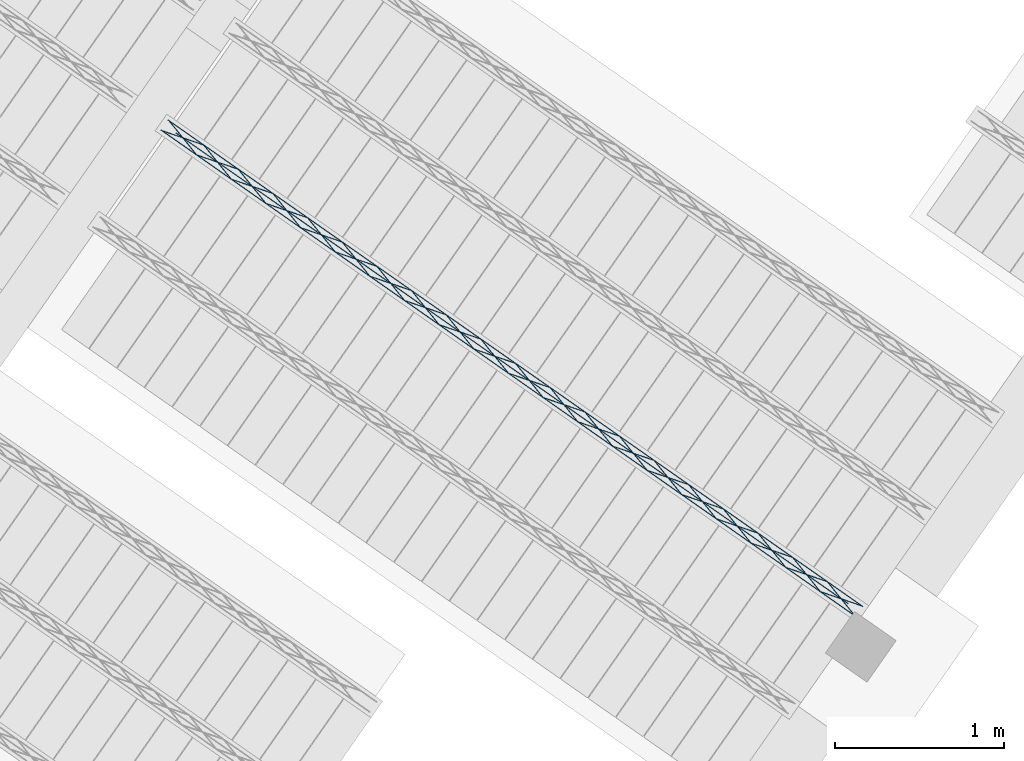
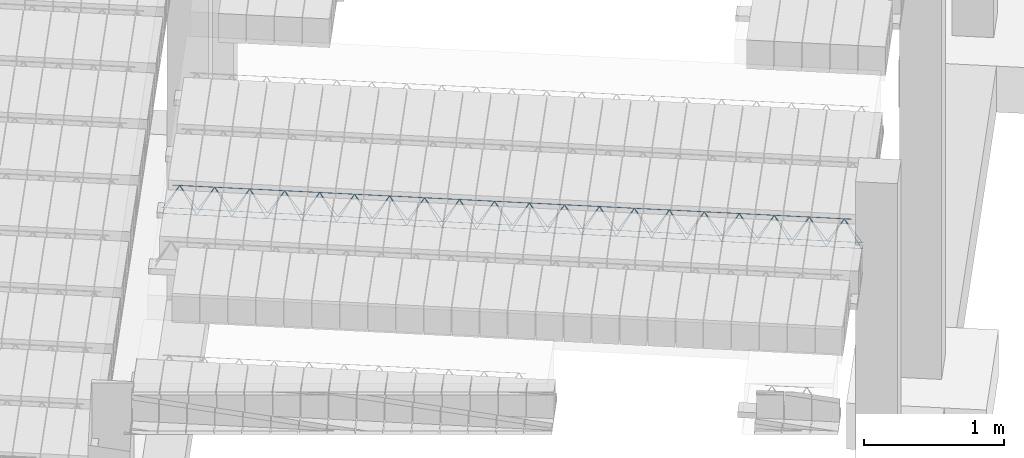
# One storey, part 24 of 80: 1 member.
"""IFC2X3 building model written with IfcOpenShell, lengths in metres."""

from ifc_helpers import new_model, entity, si_unit, converted_unit, derived_unit, direction, frame, origin, origin_2d_with_axis, place, context, subcontext, project, spatial, circle, extrude, type_object, element, save


model = new_model("IFC2X3")

# Units and contexts
model_context = context("Model", 3, precision=1e-05, world=origin(), true_north=direction((6.123031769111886e-17, 1.0)))
body_context = subcontext(model_context, "Body", "Model", "MODEL_VIEW")
ifc_project = project(units=[si_unit("LENGTHUNIT", "METRE"), si_unit("AREAUNIT", "SQUARE_METRE"), si_unit("VOLUMEUNIT", "CUBIC_METRE"), converted_unit("PLANEANGLEUNIT", "DEGREE", entity("IfcPlaneAngleMeasure", 0.017453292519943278), si_unit("PLANEANGLEUNIT", "RADIAN"), dimensions=[0, 0, 0, 0, 0, 0, 0]), si_unit("MASSUNIT", "GRAM", prefix="KILO"), derived_unit("MASSDENSITYUNIT", [(si_unit("MASSUNIT", "GRAM", prefix="KILO"), 1), (si_unit("LENGTHUNIT", "METRE"), -3)]), derived_unit("IONCONCENTRATIONUNIT", [(si_unit("MASSUNIT", "GRAM", prefix="KILO"), 1), (si_unit("LENGTHUNIT", "METRE"), -3)]), derived_unit("MOMENTOFINERTIAUNIT", [(si_unit("LENGTHUNIT", "METRE"), 4)]), si_unit("TIMEUNIT", "SECOND"), si_unit("FREQUENCYUNIT", "HERTZ"), si_unit("THERMODYNAMICTEMPERATUREUNIT", "DEGREE_CELSIUS"), derived_unit("THERMALTRANSMITTANCEUNIT", [(si_unit("MASSUNIT", "GRAM", prefix="KILO"), 1), (si_unit("THERMODYNAMICTEMPERATUREUNIT", "KELVIN"), -1), (si_unit("TIMEUNIT", "SECOND"), -3)]), derived_unit("THERMALCONDUCTANCEUNIT", [(si_unit("MASSUNIT", "GRAM", prefix="KILO"), 1), (si_unit("THERMODYNAMICTEMPERATUREUNIT", "KELVIN"), -1), (si_unit("TIMEUNIT", "SECOND"), -3), (si_unit("LENGTHUNIT", "METRE"), 1)]), derived_unit("VOLUMETRICFLOWRATEUNIT", [(si_unit("LENGTHUNIT", "METRE", prefix="DECI"), 3), (si_unit("TIMEUNIT", "SECOND"), -1)]), derived_unit("MASSFLOWRATEUNIT", [(si_unit("MASSUNIT", "GRAM", prefix="KILO"), 1), (si_unit("TIMEUNIT", "SECOND"), -1)]), derived_unit("ROTATIONALFREQUENCYUNIT", [(si_unit("TIMEUNIT", "SECOND"), -1)]), si_unit("ELECTRICCURRENTUNIT", "AMPERE"), si_unit("ELECTRICVOLTAGEUNIT", "VOLT"), si_unit("POWERUNIT", "WATT"), si_unit("FORCEUNIT", "NEWTON", prefix="KILO"), si_unit("ILLUMINANCEUNIT", "LUX"), si_unit("LUMINOUSFLUXUNIT", "LUMEN"), si_unit("LUMINOUSINTENSITYUNIT", "CANDELA"), si_unit("ENERGYUNIT", "JOULE"), derived_unit("USERDEFINED", [(si_unit("MASSUNIT", "GRAM", prefix="KILO"), -1), (si_unit("LENGTHUNIT", "METRE"), -2), (si_unit("TIMEUNIT", "SECOND"), 3), (si_unit("LUMINOUSFLUXUNIT", "LUMEN"), 1)]), derived_unit("USERDEFINED", [(si_unit("MASSUNIT", "GRAM", prefix="KILO"), 1), (si_unit("TIMEUNIT", "SECOND"), -3), (si_unit("LENGTHUNIT", "METRE"), 3), (si_unit("ELECTRICCURRENTUNIT", "AMPERE"), -2)]), derived_unit("SOUNDPOWERUNIT", [(si_unit("MASSUNIT", "GRAM", prefix="KILO"), 1), (si_unit("TIMEUNIT", "SECOND"), -3), (si_unit("LENGTHUNIT", "METRE"), 2)]), derived_unit("SOUNDPRESSUREUNIT", [(si_unit("MASSUNIT", "GRAM", prefix="KILO"), 1), (si_unit("LENGTHUNIT", "METRE"), -1), (si_unit("TIMEUNIT", "SECOND"), -2)]), derived_unit("LINEARVELOCITYUNIT", [(si_unit("LENGTHUNIT", "METRE"), 1), (si_unit("TIMEUNIT", "SECOND"), -1)]), si_unit("PRESSUREUNIT", "PASCAL"), derived_unit("USERDEFINED", [(si_unit("MASSUNIT", "GRAM", prefix="KILO"), 1), (si_unit("LENGTHUNIT", "METRE"), -2), (si_unit("TIMEUNIT", "SECOND"), -2)]), derived_unit("LINEARFORCEUNIT", [(si_unit("MASSUNIT", "GRAM", prefix="KILO"), 1), (si_unit("TIMEUNIT", "SECOND"), -2)]), derived_unit("PLANARFORCEUNIT", [(si_unit("MASSUNIT", "GRAM", prefix="KILO"), 1), (si_unit("LENGTHUNIT", "METRE"), -1), (si_unit("TIMEUNIT", "SECOND"), -2)]), derived_unit("SPECIFICHEATCAPACITYUNIT", [(si_unit("THERMODYNAMICTEMPERATUREUNIT", "KELVIN"), -1), (si_unit("LENGTHUNIT", "METRE"), 2), (si_unit("TIMEUNIT", "SECOND"), -2)]), derived_unit("HEATFLUXDENSITYUNIT", [(si_unit("MASSUNIT", "GRAM", prefix="KILO"), 1), (si_unit("TIMEUNIT", "SECOND"), -3)]), derived_unit("HEATINGVALUEUNIT", [(si_unit("LENGTHUNIT", "METRE"), 2), (si_unit("TIMEUNIT", "SECOND"), -2)]), derived_unit("VAPORPERMEABILITYUNIT", [(si_unit("LENGTHUNIT", "METRE"), -1), (si_unit("TIMEUNIT", "SECOND"), 1)]), derived_unit("DYNAMICVISCOSITYUNIT", [(si_unit("MASSUNIT", "GRAM", prefix="KILO"), 1), (si_unit("TIMEUNIT", "SECOND"), -1), (si_unit("LENGTHUNIT", "METRE"), -1)]), derived_unit("THERMALEXPANSIONCOEFFICIENTUNIT", [(si_unit("THERMODYNAMICTEMPERATUREUNIT", "KELVIN"), -1)]), derived_unit("MODULUSOFELASTICITYUNIT", [(si_unit("MASSUNIT", "GRAM", prefix="KILO"), 1), (si_unit("LENGTHUNIT", "METRE"), -1), (si_unit("TIMEUNIT", "SECOND"), -2)]), derived_unit("ISOTHERMALMOISTURECAPACITYUNIT", [(si_unit("MASSUNIT", "GRAM", prefix="KILO"), -1), (si_unit("LENGTHUNIT", "METRE"), 3)]), derived_unit("MOISTUREDIFFUSIVITYUNIT", [(si_unit("TIMEUNIT", "SECOND"), -1), (si_unit("LENGTHUNIT", "METRE"), 2)]), derived_unit("MASSPERLENGTHUNIT", [(si_unit("MASSUNIT", "GRAM", prefix="KILO"), 1), (si_unit("LENGTHUNIT", "METRE"), -1)]), derived_unit("THERMALRESISTANCEUNIT", [(si_unit("MASSUNIT", "GRAM", prefix="KILO"), -1), (si_unit("TIMEUNIT", "SECOND"), 3), (si_unit("THERMODYNAMICTEMPERATUREUNIT", "KELVIN"), 1)]), derived_unit("ACCELERATIONUNIT", [(si_unit("LENGTHUNIT", "METRE"), 1), (si_unit("TIMEUNIT", "SECOND"), -2)]), derived_unit("ANGULARVELOCITYUNIT", [(si_unit("TIMEUNIT", "SECOND"), -1), (si_unit("PLANEANGLEUNIT", "RADIAN"), 1)]), derived_unit("LINEARSTIFFNESSUNIT", [(si_unit("MASSUNIT", "GRAM", prefix="KILO"), 1), (si_unit("TIMEUNIT", "SECOND"), -2)]), derived_unit("WARPINGCONSTANTUNIT", [(si_unit("LENGTHUNIT", "METRE"), 6)]), derived_unit("LINEARMOMENTUNIT", [(si_unit("MASSUNIT", "GRAM", prefix="KILO"), 1), (si_unit("LENGTHUNIT", "METRE"), 1), (si_unit("TIMEUNIT", "SECOND"), -2)]), derived_unit("TORQUEUNIT", [(si_unit("MASSUNIT", "GRAM", prefix="KILO"), 1), (si_unit("LENGTHUNIT", "METRE"), 2), (si_unit("TIMEUNIT", "SECOND"), -2)])], contexts=[model_context])

# Site, building, storey
site_placement = place(None, origin())
site = spatial("IfcSite", under=ifc_project, at=site_placement, Name="Default", CompositionType="ELEMENT")
building_placement = place(site_placement, origin())
building = spatial("IfcBuilding", under=site, at=building_placement, CompositionType="ELEMENT")
storey_placement = place(building_placement, frame((0.0, 0.0, 95.94)))
storey = spatial("IfcBuildingStorey", under=building, at=storey_placement, Name="PB", CompositionType="ELEMENT", Elevation=95.94)

# Member
member_type = type_object("IfcMemberType", Name="Celosía (Vigueta 2 - Paño 6)", PredefinedType="NOTDEFINED")
member_placement = place(storey_placement, origin())
element("IfcMember", 1, at=member_placement, inside=storey, type_object=member_type, Name="Celosía (Vigueta 2 - Paño 6)", context=body_context, shape_type="SweptSolid", body=[
    extrude(circle(Radius=0.0025, at=origin_2d_with_axis()), frame((3.7604080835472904, 4.354992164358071, 3.3049999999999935), z_axis=(0.8191520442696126, -0.5735764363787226, 0.0), x_axis=(-0.5735764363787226, -0.8191520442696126, 0.0)), (0.0, 0.0, 1.0), 5.017554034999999),
    extrude(circle(Radius=0.0025, at=origin_2d_with_axis()), frame((7.82257036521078, 1.554583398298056, 3.5299999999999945), z_axis=(-0.8191520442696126, 0.5735764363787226, 0.0), x_axis=(-0.5735764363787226, -0.8191520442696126, 0.0)), (0.0, 0.0, 1.0), 4.849999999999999),
    extrude(circle(Radius=0.0025, at=origin_2d_with_axis()), frame((7.863358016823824, 1.482075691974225, 3.3049999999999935), z_axis=(-0.3145304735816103, 0.389334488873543, 0.8657304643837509), x_axis=(-0.7778747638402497, -0.6284193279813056, 0.0)), (0.0, 0.0, 1.0), 0.2598961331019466),
    extrude(circle(Radius=0.0025, at=origin_2d_with_axis()), frame((7.658570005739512, 1.625469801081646, 3.3049999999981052), z_axis=(0.47343050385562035, -0.1624017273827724, 0.8657304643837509), x_axis=(-0.3244721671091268, -0.9458952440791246, 0.0)), (0.0, 0.0, 1.0), 0.25989613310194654),
    extrude(circle(Radius=0.0025, at=origin_2d_with_axis()), frame((7.65857000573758, 1.6254698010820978, 3.3049999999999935), z_axis=(-0.3145304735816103, 0.389334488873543, 0.8657304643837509), x_axis=(-0.7778747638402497, -0.6284193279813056, 0.0)), (0.0, 0.0, 1.0), 0.2598961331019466),
    extrude(circle(Radius=0.0025, at=origin_2d_with_axis()), frame((7.453781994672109, 1.7688639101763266, 3.3049999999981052), z_axis=(0.47343050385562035, -0.1624017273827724, 0.8657304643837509), x_axis=(-0.3244721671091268, -0.9458952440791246, 0.0)), (0.0, 0.0, 1.0), 0.25989613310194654),
    extrude(circle(Radius=0.0025, at=origin_2d_with_axis()), frame((7.4537819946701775, 1.7688639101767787, 3.3049999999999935), z_axis=(-0.3145304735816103, 0.389334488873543, 0.8657304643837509), x_axis=(-0.7778747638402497, -0.6284193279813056, 0.0)), (0.0, 0.0, 1.0), 0.2598961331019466),
    extrude(circle(Radius=0.0025, at=origin_2d_with_axis()), frame((7.248993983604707, 1.9122580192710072, 3.3049999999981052), z_axis=(0.47343050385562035, -0.1624017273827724, 0.8657304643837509), x_axis=(-0.3244721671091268, -0.9458952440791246, 0.0)), (0.0, 0.0, 1.0), 0.25989613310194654),
    extrude(circle(Radius=0.0025, at=origin_2d_with_axis()), frame((7.248993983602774, 1.9122580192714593, 3.3049999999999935), z_axis=(-0.3145304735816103, 0.389334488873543, 0.8657304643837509), x_axis=(-0.7778747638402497, -0.6284193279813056, 0.0)), (0.0, 0.0, 1.0), 0.2598961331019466),
    extrude(circle(Radius=0.0025, at=origin_2d_with_axis()), frame((7.044205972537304, 2.055652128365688, 3.3049999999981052), z_axis=(0.47343050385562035, -0.1624017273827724, 0.8657304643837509), x_axis=(-0.3244721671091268, -0.9458952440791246, 0.0)), (0.0, 0.0, 1.0), 0.25989613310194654),
    extrude(circle(Radius=0.0025, at=origin_2d_with_axis()), frame((7.044205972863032, 2.055652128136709, 3.3049999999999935), z_axis=(-0.3145304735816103, 0.389334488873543, 0.8657304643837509), x_axis=(-0.7778747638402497, -0.6284193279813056, 0.0)), (0.0, 0.0, 1.0), 0.2598961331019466),
    extrude(circle(Radius=0.0025, at=origin_2d_with_axis()), frame((6.839417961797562, 2.199046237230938, 3.3049999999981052), z_axis=(0.47343050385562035, -0.1624017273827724, 0.8657304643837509), x_axis=(-0.3244721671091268, -0.9458952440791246, 0.0)), (0.0, 0.0, 1.0), 0.25989613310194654),
    extrude(circle(Radius=0.0025, at=origin_2d_with_axis()), frame((6.839417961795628, 2.1990462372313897, 3.3049999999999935), z_axis=(-0.3145304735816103, 0.389334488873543, 0.8657304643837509), x_axis=(-0.7778747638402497, -0.6284193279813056, 0.0)), (0.0, 0.0, 1.0), 0.2598961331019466),
    extrude(circle(Radius=0.0025, at=origin_2d_with_axis()), frame((6.634629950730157, 2.3424403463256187, 3.3049999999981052), z_axis=(0.47343050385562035, -0.1624017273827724, 0.8657304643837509), x_axis=(-0.3244721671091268, -0.9458952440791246, 0.0)), (0.0, 0.0, 1.0), 0.25989613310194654),
    extrude(circle(Radius=0.0025, at=origin_2d_with_axis()), frame((6.634629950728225, 2.342440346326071, 3.3049999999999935), z_axis=(-0.3145304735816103, 0.389334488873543, 0.8657304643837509), x_axis=(-0.7778747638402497, -0.6284193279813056, 0.0)), (0.0, 0.0, 1.0), 0.2598961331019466),
    extrude(circle(Radius=0.0025, at=origin_2d_with_axis()), frame((6.429841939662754, 2.4858344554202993, 3.3049999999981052), z_axis=(0.47343050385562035, -0.1624017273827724, 0.8657304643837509), x_axis=(-0.3244721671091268, -0.9458952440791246, 0.0)), (0.0, 0.0, 1.0), 0.25989613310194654),
    extrude(circle(Radius=0.0025, at=origin_2d_with_axis()), frame((6.429841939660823, 2.4858344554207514, 3.3049999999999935), z_axis=(-0.3145304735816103, 0.389334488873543, 0.8657304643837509), x_axis=(-0.7778747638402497, -0.6284193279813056, 0.0)), (0.0, 0.0, 1.0), 0.2598961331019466),
    extrude(circle(Radius=0.0025, at=origin_2d_with_axis()), frame((6.225053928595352, 2.6292285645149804, 3.3049999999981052), z_axis=(0.47343050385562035, -0.1624017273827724, 0.8657304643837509), x_axis=(-0.3244721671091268, -0.9458952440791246, 0.0)), (0.0, 0.0, 1.0), 0.25989613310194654),
    extrude(circle(Radius=0.0025, at=origin_2d_with_axis()), frame((6.225053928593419, 2.629228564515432, 3.3049999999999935), z_axis=(-0.3145304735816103, 0.389334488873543, 0.8657304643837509), x_axis=(-0.7778747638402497, -0.6284193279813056, 0.0)), (0.0, 0.0, 1.0), 0.2598961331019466),
    extrude(circle(Radius=0.0025, at=origin_2d_with_axis()), frame((6.020265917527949, 2.7726226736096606, 3.3049999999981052), z_axis=(0.47343050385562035, -0.1624017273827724, 0.8657304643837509), x_axis=(-0.3244721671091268, -0.9458952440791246, 0.0)), (0.0, 0.0, 1.0), 0.25989613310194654),
    extrude(circle(Radius=0.0025, at=origin_2d_with_axis()), frame((6.020265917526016, 2.7726226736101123, 3.3049999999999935), z_axis=(-0.3145304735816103, 0.389334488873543, 0.8657304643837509), x_axis=(-0.7778747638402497, -0.6284193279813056, 0.0)), (0.0, 0.0, 1.0), 0.2598961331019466),
    extrude(circle(Radius=0.0025, at=origin_2d_with_axis()), frame((5.815477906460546, 2.9160167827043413, 3.3049999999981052), z_axis=(0.47343050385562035, -0.1624017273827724, 0.8657304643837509), x_axis=(-0.3244721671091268, -0.9458952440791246, 0.0)), (0.0, 0.0, 1.0), 0.25989613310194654),
    extrude(circle(Radius=0.0025, at=origin_2d_with_axis()), frame((5.815477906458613, 2.916016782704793, 3.3049999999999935), z_axis=(-0.3145304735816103, 0.389334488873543, 0.8657304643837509), x_axis=(-0.7778747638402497, -0.6284193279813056, 0.0)), (0.0, 0.0, 1.0), 0.2598961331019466),
    extrude(circle(Radius=0.0025, at=origin_2d_with_axis()), frame((5.610689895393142, 3.0594108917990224, 3.3049999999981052), z_axis=(0.47343050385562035, -0.1624017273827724, 0.8657304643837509), x_axis=(-0.3244721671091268, -0.9458952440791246, 0.0)), (0.0, 0.0, 1.0), 0.25989613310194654),
    extrude(circle(Radius=0.0025, at=origin_2d_with_axis()), frame((5.61068989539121, 3.059410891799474, 3.3049999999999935), z_axis=(-0.3145304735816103, 0.389334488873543, 0.8657304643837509), x_axis=(-0.7778747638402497, -0.6284193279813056, 0.0)), (0.0, 0.0, 1.0), 0.2598961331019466),
    extrude(circle(Radius=0.0025, at=origin_2d_with_axis()), frame((5.405901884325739, 3.2028050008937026, 3.3049999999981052), z_axis=(0.47343050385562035, -0.1624017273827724, 0.8657304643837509), x_axis=(-0.3244721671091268, -0.9458952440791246, 0.0)), (0.0, 0.0, 1.0), 0.25989613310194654),
    extrude(circle(Radius=0.0025, at=origin_2d_with_axis()), frame((5.405901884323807, 3.202805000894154, 3.3049999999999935), z_axis=(-0.3145304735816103, 0.389334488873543, 0.8657304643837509), x_axis=(-0.7778747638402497, -0.6284193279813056, 0.0)), (0.0, 0.0, 1.0), 0.2598961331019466),
    extrude(circle(Radius=0.0025, at=origin_2d_with_axis()), frame((5.201113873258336, 3.3461991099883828, 3.3049999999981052), z_axis=(0.47343050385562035, -0.1624017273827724, 0.8657304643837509), x_axis=(-0.3244721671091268, -0.9458952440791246, 0.0)), (0.0, 0.0, 1.0), 0.25989613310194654),
    extrude(circle(Radius=0.0025, at=origin_2d_with_axis()), frame((5.2011138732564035, 3.3461991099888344, 3.3049999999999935), z_axis=(-0.3145304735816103, 0.389334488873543, 0.8657304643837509), x_axis=(-0.7778747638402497, -0.6284193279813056, 0.0)), (0.0, 0.0, 1.0), 0.2598961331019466),
    extrude(circle(Radius=0.0025, at=origin_2d_with_axis()), frame((4.9963258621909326, 3.4895932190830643, 3.3049999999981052), z_axis=(0.47343050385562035, -0.1624017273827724, 0.8657304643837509), x_axis=(-0.3244721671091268, -0.9458952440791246, 0.0)), (0.0, 0.0, 1.0), 0.25989613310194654),
    extrude(circle(Radius=0.0025, at=origin_2d_with_axis()), frame((4.996325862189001, 3.489593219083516, 3.3049999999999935), z_axis=(-0.3145304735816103, 0.389334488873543, 0.8657304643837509), x_axis=(-0.7778747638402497, -0.6284193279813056, 0.0)), (0.0, 0.0, 1.0), 0.2598961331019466),
    extrude(circle(Radius=0.0025, at=origin_2d_with_axis()), frame((4.79153785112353, 3.6329873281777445, 3.3049999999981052), z_axis=(0.47343050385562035, -0.1624017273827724, 0.8657304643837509), x_axis=(-0.3244721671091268, -0.9458952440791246, 0.0)), (0.0, 0.0, 1.0), 0.25989613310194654),
    extrude(circle(Radius=0.0025, at=origin_2d_with_axis()), frame((4.791537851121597, 3.632987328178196, 3.3049999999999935), z_axis=(-0.3145304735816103, 0.389334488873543, 0.8657304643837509), x_axis=(-0.7778747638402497, -0.6284193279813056, 0.0)), (0.0, 0.0, 1.0), 0.2598961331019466),
    extrude(circle(Radius=0.0025, at=origin_2d_with_axis()), frame((4.586749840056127, 3.776381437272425, 3.3049999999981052), z_axis=(0.47343050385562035, -0.1624017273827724, 0.8657304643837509), x_axis=(-0.3244721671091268, -0.9458952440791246, 0.0)), (0.0, 0.0, 1.0), 0.25989613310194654),
    extrude(circle(Radius=0.0025, at=origin_2d_with_axis()), frame((4.586749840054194, 3.7763814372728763, 3.3049999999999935), z_axis=(-0.3145304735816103, 0.389334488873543, 0.8657304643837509), x_axis=(-0.7778747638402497, -0.6284193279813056, 0.0)), (0.0, 0.0, 1.0), 0.2598961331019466),
    extrude(circle(Radius=0.0025, at=origin_2d_with_axis()), frame((4.381961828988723, 3.9197755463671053, 3.3049999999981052), z_axis=(0.47343050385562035, -0.1624017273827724, 0.8657304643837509), x_axis=(-0.3244721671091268, -0.9458952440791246, 0.0)), (0.0, 0.0, 1.0), 0.25989613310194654),
    extrude(circle(Radius=0.0025, at=origin_2d_with_axis()), frame((4.381961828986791, 3.9197755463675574, 3.3049999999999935), z_axis=(-0.3145304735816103, 0.389334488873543, 0.8657304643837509), x_axis=(-0.7778747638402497, -0.6284193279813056, 0.0)), (0.0, 0.0, 1.0), 0.2598961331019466),
    extrude(circle(Radius=0.0025, at=origin_2d_with_axis()), frame((4.17717381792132, 4.063169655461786, 3.3049999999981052), z_axis=(0.47343050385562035, -0.1624017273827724, 0.8657304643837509), x_axis=(-0.3244721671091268, -0.9458952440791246, 0.0)), (0.0, 0.0, 1.0), 0.25989613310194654),
    extrude(circle(Radius=0.0025, at=origin_2d_with_axis()), frame((4.177173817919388, 4.0631696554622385, 3.3049999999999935), z_axis=(-0.3145304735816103, 0.389334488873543, 0.8657304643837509), x_axis=(-0.7778747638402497, -0.6284193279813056, 0.0)), (0.0, 0.0, 1.0), 0.2598961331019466),
    extrude(circle(Radius=0.0025, at=origin_2d_with_axis()), frame((3.9723858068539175, 4.206563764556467, 3.3049999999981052), z_axis=(0.47343050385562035, -0.1624017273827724, 0.8657304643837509), x_axis=(-0.3244721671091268, -0.9458952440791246, 0.0)), (0.0, 0.0, 1.0), 0.25989613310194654),
    extrude(circle(Radius=0.0025, at=origin_2d_with_axis()), frame((3.9723858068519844, 4.206563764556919, 3.3049999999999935), z_axis=(-0.3145304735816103, 0.389334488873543, 0.8657304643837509), x_axis=(-0.7778747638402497, -0.6284193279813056, 0.0)), (0.0, 0.0, 1.0), 0.2598961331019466),
    extrude(circle(Radius=0.0025, at=origin_2d_with_axis()), frame((3.767597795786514, 4.349957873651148, 3.3049999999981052), z_axis=(0.47343050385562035, -0.1624017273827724, 0.8657304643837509), x_axis=(-0.3244721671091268, -0.9458952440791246, 0.0)), (0.0, 0.0, 1.0), 0.25989613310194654),
    extrude(circle(Radius=0.0025, at=origin_2d_with_axis()), frame((7.911845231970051, 1.5360203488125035, 3.3049999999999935), z_axis=(-0.8191520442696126, 0.5735764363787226, 0.0), x_axis=(-0.5735764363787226, -0.8191520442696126, 0.0)), (0.0, 0.0, 1.0), 5.017554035),
    extrude(circle(Radius=0.0025, at=origin_2d_with_axis()), frame((7.904655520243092, 1.541054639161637, 3.3049999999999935), z_axis=(-0.47343050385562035, 0.1624017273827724, 0.8657304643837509), x_axis=(-0.3244721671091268, -0.9458952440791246, 0.0)), (0.0, 0.0, 1.0), 0.25989613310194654),
    extrude(circle(Radius=0.0025, at=origin_2d_with_axis()), frame((7.699867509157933, 1.684448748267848, 3.3049999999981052), z_axis=(0.3145304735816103, -0.389334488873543, 0.8657304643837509), x_axis=(-0.7778747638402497, -0.6284193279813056, 0.0)), (0.0, 0.0, 1.0), 0.2598961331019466),
    extrude(circle(Radius=0.0025, at=origin_2d_with_axis()), frame((7.6998675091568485, 1.68444874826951, 3.3049999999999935), z_axis=(-0.47343050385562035, 0.1624017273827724, 0.8657304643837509), x_axis=(-0.3244721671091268, -0.9458952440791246, 0.0)), (0.0, 0.0, 1.0), 0.25989613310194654),
    extrude(circle(Radius=0.0025, at=origin_2d_with_axis()), frame((7.49507949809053, 1.827842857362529, 3.3049999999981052), z_axis=(0.3145304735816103, -0.389334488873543, 0.8657304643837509), x_axis=(-0.7778747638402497, -0.6284193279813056, 0.0)), (0.0, 0.0, 1.0), 0.2598961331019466),
    extrude(circle(Radius=0.0025, at=origin_2d_with_axis()), frame((7.495079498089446, 1.827842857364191, 3.3049999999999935), z_axis=(-0.47343050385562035, 0.1624017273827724, 0.8657304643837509), x_axis=(-0.3244721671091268, -0.9458952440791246, 0.0)), (0.0, 0.0, 1.0), 0.25989613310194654),
    extrude(circle(Radius=0.0025, at=origin_2d_with_axis()), frame((7.2902914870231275, 1.9712369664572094, 3.3049999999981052), z_axis=(0.3145304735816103, -0.389334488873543, 0.8657304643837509), x_axis=(-0.7778747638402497, -0.6284193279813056, 0.0)), (0.0, 0.0, 1.0), 0.2598961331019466),
    extrude(circle(Radius=0.0025, at=origin_2d_with_axis()), frame((7.290291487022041, 1.9712369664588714, 3.3049999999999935), z_axis=(-0.47343050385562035, 0.1624017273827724, 0.8657304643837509), x_axis=(-0.3244721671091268, -0.9458952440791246, 0.0)), (0.0, 0.0, 1.0), 0.25989613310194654),
    extrude(circle(Radius=0.0025, at=origin_2d_with_axis()), frame((7.085503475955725, 2.1146310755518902, 3.3049999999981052), z_axis=(0.3145304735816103, -0.389334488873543, 0.8657304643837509), x_axis=(-0.7778747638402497, -0.6284193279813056, 0.0)), (0.0, 0.0, 1.0), 0.2598961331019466),
    extrude(circle(Radius=0.0025, at=origin_2d_with_axis()), frame((7.085503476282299, 2.1146310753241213, 3.3049999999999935), z_axis=(-0.47343050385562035, 0.1624017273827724, 0.8657304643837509), x_axis=(-0.3244721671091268, -0.9458952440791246, 0.0)), (0.0, 0.0, 1.0), 0.25989613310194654),
    extrude(circle(Radius=0.0025, at=origin_2d_with_axis()), frame((6.8807154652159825, 2.25802518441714, 3.3049999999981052), z_axis=(0.3145304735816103, -0.389334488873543, 0.8657304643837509), x_axis=(-0.7778747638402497, -0.6284193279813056, 0.0)), (0.0, 0.0, 1.0), 0.2598961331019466),
    extrude(circle(Radius=0.0025, at=origin_2d_with_axis()), frame((6.880715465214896, 2.2580251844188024, 3.3049999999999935), z_axis=(-0.47343050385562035, 0.1624017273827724, 0.8657304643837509), x_axis=(-0.3244721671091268, -0.9458952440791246, 0.0)), (0.0, 0.0, 1.0), 0.25989613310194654),
    extrude(circle(Radius=0.0025, at=origin_2d_with_axis()), frame((6.675927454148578, 2.401419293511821, 3.3049999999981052), z_axis=(0.3145304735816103, -0.389334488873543, 0.8657304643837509), x_axis=(-0.7778747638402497, -0.6284193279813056, 0.0)), (0.0, 0.0, 1.0), 0.2598961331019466),
    extrude(circle(Radius=0.0025, at=origin_2d_with_axis()), frame((6.675927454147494, 2.4014192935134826, 3.3049999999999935), z_axis=(-0.47343050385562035, 0.1624017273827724, 0.8657304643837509), x_axis=(-0.3244721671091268, -0.9458952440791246, 0.0)), (0.0, 0.0, 1.0), 0.25989613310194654),
    extrude(circle(Radius=0.0025, at=origin_2d_with_axis()), frame((6.471139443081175, 2.5448134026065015, 3.3049999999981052), z_axis=(0.3145304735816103, -0.389334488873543, 0.8657304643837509), x_axis=(-0.7778747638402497, -0.6284193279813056, 0.0)), (0.0, 0.0, 1.0), 0.2598961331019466),
    extrude(circle(Radius=0.0025, at=origin_2d_with_axis()), frame((6.471139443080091, 2.5448134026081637, 3.3049999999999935), z_axis=(-0.47343050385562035, 0.1624017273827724, 0.8657304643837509), x_axis=(-0.3244721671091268, -0.9458952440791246, 0.0)), (0.0, 0.0, 1.0), 0.25989613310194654),
    extrude(circle(Radius=0.0025, at=origin_2d_with_axis()), frame((6.2663514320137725, 2.688207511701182, 3.3049999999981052), z_axis=(0.3145304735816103, -0.389334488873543, 0.8657304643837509), x_axis=(-0.7778747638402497, -0.6284193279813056, 0.0)), (0.0, 0.0, 1.0), 0.2598961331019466),
    extrude(circle(Radius=0.0025, at=origin_2d_with_axis()), frame((6.266351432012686, 2.688207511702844, 3.3049999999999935), z_axis=(-0.47343050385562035, 0.1624017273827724, 0.8657304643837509), x_axis=(-0.3244721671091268, -0.9458952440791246, 0.0)), (0.0, 0.0, 1.0), 0.25989613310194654),
    extrude(circle(Radius=0.0025, at=origin_2d_with_axis()), frame((6.06156342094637, 2.8316016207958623, 3.3049999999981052), z_axis=(0.3145304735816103, -0.389334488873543, 0.8657304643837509), x_axis=(-0.7778747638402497, -0.6284193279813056, 0.0)), (0.0, 0.0, 1.0), 0.2598961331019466),
    extrude(circle(Radius=0.0025, at=origin_2d_with_axis()), frame((6.0615634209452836, 2.8316016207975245, 3.3049999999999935), z_axis=(-0.47343050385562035, 0.1624017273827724, 0.8657304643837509), x_axis=(-0.3244721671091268, -0.9458952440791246, 0.0)), (0.0, 0.0, 1.0), 0.25989613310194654),
    extrude(circle(Radius=0.0025, at=origin_2d_with_axis()), frame((5.856775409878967, 2.9749957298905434, 3.3049999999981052), z_axis=(0.3145304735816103, -0.389334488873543, 0.8657304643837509), x_axis=(-0.7778747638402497, -0.6284193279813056, 0.0)), (0.0, 0.0, 1.0), 0.2598961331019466),
    extrude(circle(Radius=0.0025, at=origin_2d_with_axis()), frame((5.856775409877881, 2.9749957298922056, 3.3049999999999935), z_axis=(-0.47343050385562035, 0.1624017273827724, 0.8657304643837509), x_axis=(-0.3244721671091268, -0.9458952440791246, 0.0)), (0.0, 0.0, 1.0), 0.25989613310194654),
    extrude(circle(Radius=0.0025, at=origin_2d_with_axis()), frame((5.6519873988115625, 3.118389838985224, 3.3049999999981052), z_axis=(0.3145304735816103, -0.389334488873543, 0.8657304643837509), x_axis=(-0.7778747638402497, -0.6284193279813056, 0.0)), (0.0, 0.0, 1.0), 0.2598961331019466),
    extrude(circle(Radius=0.0025, at=origin_2d_with_axis()), frame((5.651987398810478, 3.118389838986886, 3.3049999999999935), z_axis=(-0.47343050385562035, 0.1624017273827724, 0.8657304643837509), x_axis=(-0.3244721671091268, -0.9458952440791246, 0.0)), (0.0, 0.0, 1.0), 0.25989613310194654),
    extrude(circle(Radius=0.0025, at=origin_2d_with_axis()), frame((5.44719938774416, 3.2617839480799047, 3.3049999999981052), z_axis=(0.3145304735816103, -0.389334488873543, 0.8657304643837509), x_axis=(-0.7778747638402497, -0.6284193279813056, 0.0)), (0.0, 0.0, 1.0), 0.2598961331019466),
    extrude(circle(Radius=0.0025, at=origin_2d_with_axis()), frame((5.447199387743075, 3.261783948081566, 3.3049999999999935), z_axis=(-0.47343050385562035, 0.1624017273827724, 0.8657304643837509), x_axis=(-0.3244721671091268, -0.9458952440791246, 0.0)), (0.0, 0.0, 1.0), 0.25989613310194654),
    extrude(circle(Radius=0.0025, at=origin_2d_with_axis()), frame((5.242411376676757, 3.405178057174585, 3.3049999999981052), z_axis=(0.3145304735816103, -0.389334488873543, 0.8657304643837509), x_axis=(-0.7778747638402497, -0.6284193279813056, 0.0)), (0.0, 0.0, 1.0), 0.2598961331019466),
    extrude(circle(Radius=0.0025, at=origin_2d_with_axis()), frame((5.242411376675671, 3.405178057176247, 3.3049999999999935), z_axis=(-0.47343050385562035, 0.1624017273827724, 0.8657304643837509), x_axis=(-0.3244721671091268, -0.9458952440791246, 0.0)), (0.0, 0.0, 1.0), 0.25989613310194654),
    extrude(circle(Radius=0.0025, at=origin_2d_with_axis()), frame((5.037623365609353, 3.548572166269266, 3.3049999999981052), z_axis=(0.3145304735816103, -0.389334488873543, 0.8657304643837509), x_axis=(-0.7778747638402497, -0.6284193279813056, 0.0)), (0.0, 0.0, 1.0), 0.2598961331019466),
    extrude(circle(Radius=0.0025, at=origin_2d_with_axis()), frame((5.037623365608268, 3.5485721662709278, 3.3049999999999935), z_axis=(-0.47343050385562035, 0.1624017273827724, 0.8657304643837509), x_axis=(-0.3244721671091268, -0.9458952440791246, 0.0)), (0.0, 0.0, 1.0), 0.25989613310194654),
    extrude(circle(Radius=0.0025, at=origin_2d_with_axis()), frame((4.832835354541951, 3.6919662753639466, 3.3049999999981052), z_axis=(0.3145304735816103, -0.389334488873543, 0.8657304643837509), x_axis=(-0.7778747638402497, -0.6284193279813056, 0.0)), (0.0, 0.0, 1.0), 0.2598961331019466),
    extrude(circle(Radius=0.0025, at=origin_2d_with_axis()), frame((4.832835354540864, 3.691966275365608, 3.3049999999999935), z_axis=(-0.47343050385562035, 0.1624017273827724, 0.8657304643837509), x_axis=(-0.3244721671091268, -0.9458952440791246, 0.0)), (0.0, 0.0, 1.0), 0.25989613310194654),
    extrude(circle(Radius=0.0025, at=origin_2d_with_axis()), frame((4.628047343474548, 3.835360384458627, 3.3049999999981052), z_axis=(0.3145304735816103, -0.389334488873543, 0.8657304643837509), x_axis=(-0.7778747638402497, -0.6284193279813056, 0.0)), (0.0, 0.0, 1.0), 0.2598961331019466),
    extrude(circle(Radius=0.0025, at=origin_2d_with_axis()), frame((4.628047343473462, 3.835360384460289, 3.3049999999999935), z_axis=(-0.47343050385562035, 0.1624017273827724, 0.8657304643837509), x_axis=(-0.3244721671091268, -0.9458952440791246, 0.0)), (0.0, 0.0, 1.0), 0.25989613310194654),
    extrude(circle(Radius=0.0025, at=origin_2d_with_axis()), frame((4.423259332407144, 3.978754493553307, 3.3049999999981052), z_axis=(0.3145304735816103, -0.389334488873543, 0.8657304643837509), x_axis=(-0.7778747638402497, -0.6284193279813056, 0.0)), (0.0, 0.0, 1.0), 0.2598961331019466),
    extrude(circle(Radius=0.0025, at=origin_2d_with_axis()), frame((4.423259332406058, 3.9787544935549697, 3.3049999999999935), z_axis=(-0.47343050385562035, 0.1624017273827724, 0.8657304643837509), x_axis=(-0.3244721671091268, -0.9458952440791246, 0.0)), (0.0, 0.0, 1.0), 0.25989613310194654),
    extrude(circle(Radius=0.0025, at=origin_2d_with_axis()), frame((4.218471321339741, 4.122148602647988, 3.3049999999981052), z_axis=(0.3145304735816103, -0.389334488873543, 0.8657304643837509), x_axis=(-0.7778747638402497, -0.6284193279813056, 0.0)), (0.0, 0.0, 1.0), 0.2598961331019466),
    extrude(circle(Radius=0.0025, at=origin_2d_with_axis()), frame((4.218471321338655, 4.12214860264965, 3.3049999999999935), z_axis=(-0.47343050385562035, 0.1624017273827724, 0.8657304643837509), x_axis=(-0.3244721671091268, -0.9458952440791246, 0.0)), (0.0, 0.0, 1.0), 0.25989613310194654),
    extrude(circle(Radius=0.0025, at=origin_2d_with_axis()), frame((4.013683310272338, 4.265542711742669, 3.3049999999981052), z_axis=(0.3145304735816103, -0.389334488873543, 0.8657304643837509), x_axis=(-0.7778747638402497, -0.6284193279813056, 0.0)), (0.0, 0.0, 1.0), 0.2598961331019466),
    extrude(circle(Radius=0.0025, at=origin_2d_with_axis()), frame((4.013683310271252, 4.265542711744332, 3.3049999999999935), z_axis=(-0.47343050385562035, 0.1624017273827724, 0.8657304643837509), x_axis=(-0.3244721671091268, -0.9458952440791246, 0.0)), (0.0, 0.0, 1.0), 0.25989613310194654),
    extrude(circle(Radius=0.0025, at=origin_2d_with_axis()), frame((3.8088952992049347, 4.40893682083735, 3.3049999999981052), z_axis=(0.3145304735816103, -0.389334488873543, 0.8657304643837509), x_axis=(-0.7778747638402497, -0.6284193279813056, 0.0)), (0.0, 0.0, 1.0), 0.2598961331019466),
])

save(model, "model.ifc")
